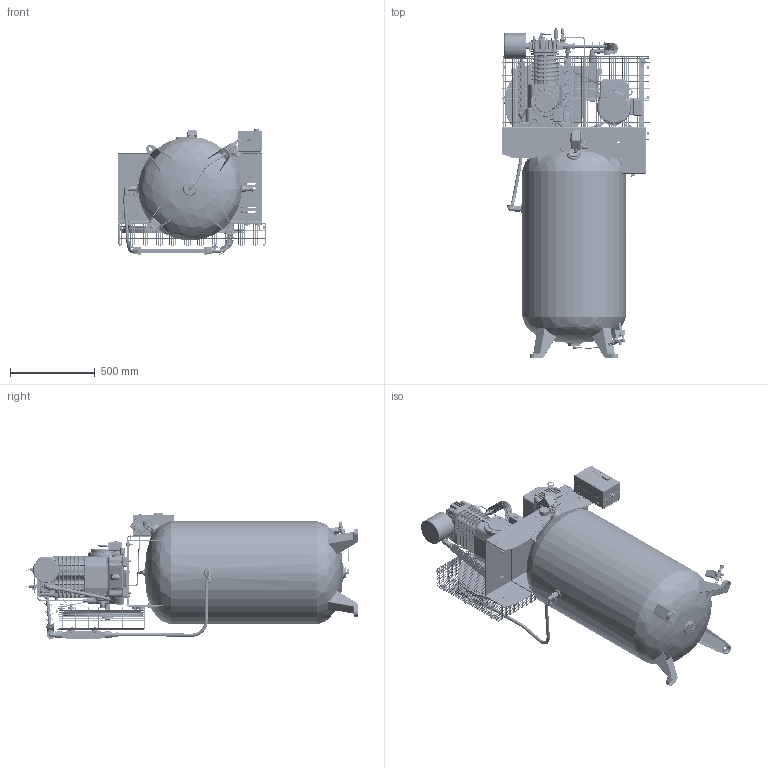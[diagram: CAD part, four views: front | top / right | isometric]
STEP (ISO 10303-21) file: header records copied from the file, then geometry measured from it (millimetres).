
FILE_DESCRIPTION(/* description */ ('Quincy 5hp Simplex Compressor - 80 Gallon Tank'),/* implementation_level */ '2;1');
FILE_NAME(/* name */ 'COMP-5Q.stp',/* time_stamp */ '2024-02-19T16:19:25-06:00',/* author */ ('atroll'),/* organization */ ('Engineered Corrosion Solutions'),/* preprocessor_version */ 'ST-DEVELOPER v19.2',/* originating_system */ 'Autodesk Inventor 2023',/* authorisation */ '');
FILE_SCHEMA (('AUTOMOTIVE_DESIGN { 1 0 10303 214 3 1 1 }'));
Length unit declared in the file: inch
Products named in the file (1): COMP-5Q
Bounding box: 877.39 x 1958.21 x 742.4 mm (x, y, z)
Volume: 68092864.2 mm3; surface area: 12116946.9 mm2
Topology: 175 solids, 179 shells, 16732 faces, 39074 edges, 23080 vertices
Faces by surface type: plane 5991, cylinder 4961, bspline 2909, cone 1083, torus 1072, sphere 716
Full cylindrical faces by diameter (mm): 1.7 x3, 2.032 x1, 2.4 x1, 2.54 x2, 2.8 x1, 3 x477, 3.6 x1, 3.7 x5, 3.81 x1, 3.962 x2, 4 x10, 4.1 x3, 4.2 x7, 4.3 x4, 4.4 x2, 4.496 x1, 4.65 x2, 4.724 x6, 4.75 x2, 4.76 x1, 4.775 x8, 4.826 x1, 4.978 x2, 5 x4, 5.588 x2, 5.6 x1, 5.664 x1, 5.73 x10, 5.74 x4, 6 x3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
Entity records: 601094 total; most frequent: CARTESIAN_POINT 221252, DIRECTION 78659, ORIENTED_EDGE 77192, EDGE_CURVE 38609, AXIS2_PLACEMENT_3D 31469, VERTEX_POINT 23078, EDGE_LOOP 18373, FACE_OUTER_BOUND 16730
